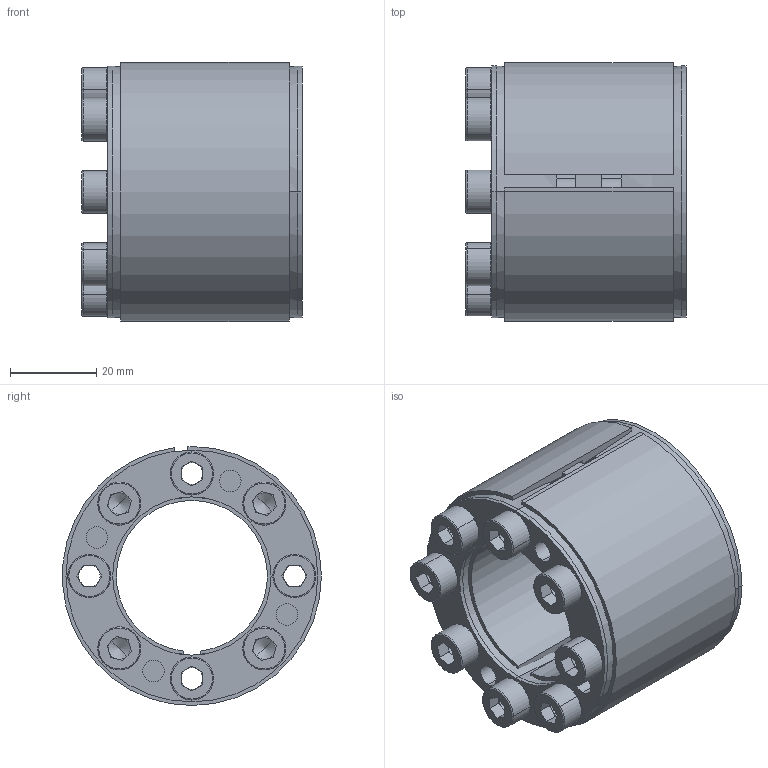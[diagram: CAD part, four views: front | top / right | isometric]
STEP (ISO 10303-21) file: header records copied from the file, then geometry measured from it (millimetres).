
FILE_DESCRIPTION (( 'STEP AP203' ), '1' );
FILE_NAME ('D4-35-60.STEP', '2017-10-14T07:46:24', ( 'MYCOM' ), ( '' ), 'SwSTEP 2.0', 'SolidWorks 2015', '' );
FILE_SCHEMA (( 'CONFIG_CONTROL_DESIGN' ));
Length unit declared in the file: millimetre
Products named in the file (1): D4-35-60
Bounding box: 51 x 59.93 x 60 mm (x, y, z)
Surface area: 39308.6 mm2 (no closed solid volume)
Topology: 0 solids, 14 shells, 242 faces, 666 edges, 428 vertices
Faces by surface type: plane 114, cylinder 77, torus 32, cone 19
Entity records: 7867 total; most frequent: DIRECTION 1465, CARTESIAN_POINT 1389, ORIENTED_EDGE 1176, EDGE_CURVE 658, AXIS2_PLACEMENT_3D 574, VERTEX_POINT 428, CIRCLE 331, LINE 317
